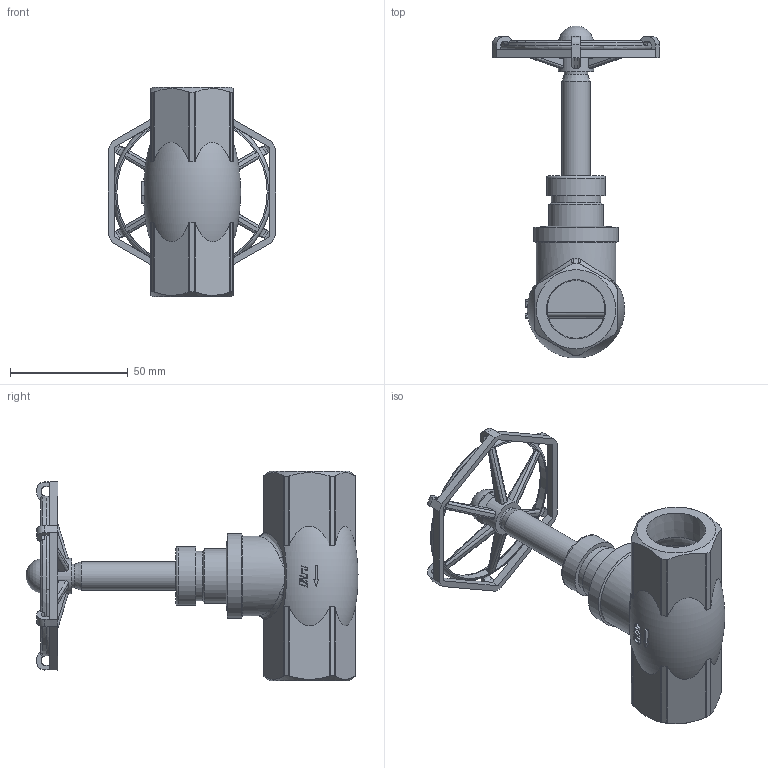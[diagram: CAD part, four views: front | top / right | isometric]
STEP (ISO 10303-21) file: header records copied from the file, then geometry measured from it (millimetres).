
FILE_DESCRIPTION(('STEP AP242'), '1');
FILE_NAME('Äó32', '', ('UNSPECIFIED'), ('UNSPECIFIED'), 'C3D Converter', 'C3D Toolkit', '');
FILE_SCHEMA(('AP242_MANAGED_MODEL_BASED_3D_ENGINEERING_MIM_LF { 1 0 10303 442 1 1 4 }'));
Length unit declared in the file: millimetre
Products named in the file (1): VSO3131M-1W-T-S
Bounding box: 71.01 x 141.15 x 89 mm (x, y, z)
Volume: 78640.9 mm3; surface area: 42062.3 mm2
Topology: 1 solids, 2 shells, 397 faces, 1100 edges, 698 vertices
Faces by surface type: plane 159, cylinder 64, extrusion 57, bspline 53, torus 43, cone 18, revolution 2, sphere 1
Full cylindrical faces by diameter (mm): 10 x2, 12 x2, 14 x1, 15 x1, 15.871 x2, 16.728 x1, 20.137 x1, 21 x1, 23 x1, 25 x2, 32 x1, 34 x1, 36 x1, 68 x1
Entity records: 24632 total; most frequent: CARTESIAN_POINT 13501, ORIENTED_EDGE 2108, DIRECTION 1428, EDGE_CURVE 1054, VERTEX_POINT 697, B_SPLINE_CURVE_WITH_KNOTS 525, AXIS2_PLACEMENT_3D 511, EDGE_LOOP 473
